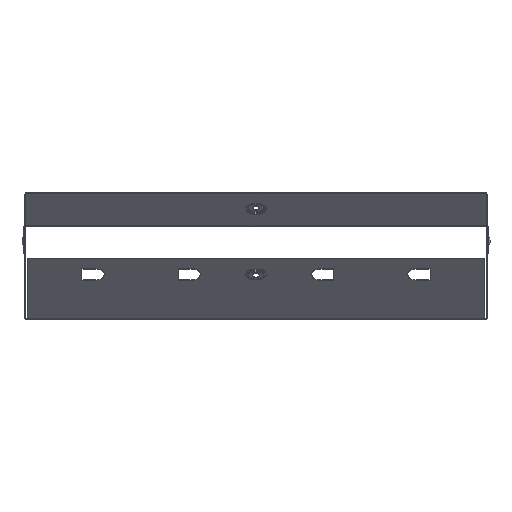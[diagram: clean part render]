
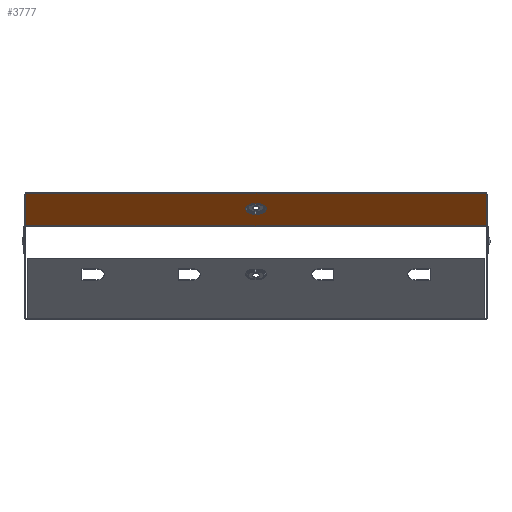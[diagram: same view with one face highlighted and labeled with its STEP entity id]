
A CAD part, top view. The second image highlights one B-rep face of the part: STEP entity #3777.
In plain terms, the highlighted planar face has unit normal (0, -0.707, 0.707).
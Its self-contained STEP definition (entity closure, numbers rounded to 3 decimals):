
#390 = AXIS2_PLACEMENT_3D ( 'NONE', #7594, #11145, #13572 ) ;
#395 = EDGE_CURVE ( 'NONE', #6185, #6937, #11813, .T. ) ;
#481 = CARTESIAN_POINT ( 'NONE',  ( -3.5, 12.446, 76.078 ) ) ;
#1164 = DIRECTION ( 'NONE',  ( 0., -0.707, -0.707 ) ) ;
#1729 = ORIENTED_EDGE ( 'NONE', *, *, #9107, .F. ) ;
#2536 = CARTESIAN_POINT ( 'NONE',  ( 3.5, 12.446, 76.078 ) ) ;
#2556 = AXIS2_PLACEMENT_3D ( 'NONE', #7744, #6660, #11349 ) ;
#2610 = DIRECTION ( 'NONE',  ( -1., 0., 0. ) ) ;
#2782 = LINE ( 'NONE', #12236, #4473 ) ;
#2926 = CARTESIAN_POINT ( 'NONE',  ( 249., 34.79, 98.421 ) ) ;
#3007 = FACE_BOUND ( 'NONE', #14838, .T. ) ;
#3017 = VECTOR ( 'NONE', #2610, 1000. ) ;
#3163 = CARTESIAN_POINT ( 'NONE',  ( -249., 34.79, 98.421 ) ) ;
#3181 = ORIENTED_EDGE ( 'NONE', *, *, #12956, .F. ) ;
#3387 = VERTEX_POINT ( 'NONE', #12747 ) ;
#3777 = ADVANCED_FACE ( 'NONE', ( #3007, #7833 ), #4180, .F. ) ;
#3807 = CARTESIAN_POINT ( 'NONE',  ( 249., -0.273, 63.359 ) ) ;
#3866 = DIRECTION ( 'NONE',  ( 1., 0., 0. ) ) ;
#4034 = ORIENTED_EDGE ( 'NONE', *, *, #14443, .F. ) ;
#4049 = ORIENTED_EDGE ( 'NONE', *, *, #8364, .F. ) ;
#4053 = VERTEX_POINT ( 'NONE', #12971 ) ;
#4180 = PLANE ( 'NONE',  #390 ) ;
#4441 = EDGE_CURVE ( 'NONE', #6185, #3387, #2782, .T. ) ;
#4473 = VECTOR ( 'NONE', #6423, 1000. ) ;
#4900 = AXIS2_PLACEMENT_3D ( 'NONE', #14212, #10625, #1164 ) ;
#5919 = VECTOR ( 'NONE', #12320, 1000. ) ;
#6029 = VERTEX_POINT ( 'NONE', #11248 ) ;
#6185 = VERTEX_POINT ( 'NONE', #10162 ) ;
#6423 = DIRECTION ( 'NONE',  ( 0., -0.707, -0.707 ) ) ;
#6533 = CIRCLE ( 'NONE', #2556, 7.598 ) ;
#6660 = DIRECTION ( 'NONE',  ( 0., -0.707, 0.707 ) ) ;
#6759 = CARTESIAN_POINT ( 'NONE',  ( -3.5, 23.192, 86.823 ) ) ;
#6937 = VERTEX_POINT ( 'NONE', #3163 ) ;
#7239 = DIRECTION ( 'NONE',  ( -1., 0., 0. ) ) ;
#7339 = LINE ( 'NONE', #13004, #15038 ) ;
#7594 = CARTESIAN_POINT ( 'NONE',  ( 249., -0.566, 63.066 ) ) ;
#7659 = DIRECTION ( 'NONE',  ( 0., -0.707, -0.707 ) ) ;
#7744 = CARTESIAN_POINT ( 'NONE',  ( -3.5, 17.819, 81.45 ) ) ;
#7800 = VERTEX_POINT ( 'NONE', #6759 ) ;
#7833 = FACE_OUTER_BOUND ( 'NONE', #8918, .T. ) ;
#8120 = ORIENTED_EDGE ( 'NONE', *, *, #395, .T. ) ;
#8364 = EDGE_CURVE ( 'NONE', #4053, #9600, #11872, .T. ) ;
#8918 = EDGE_LOOP ( 'NONE', ( #10903, #3181, #14572, #8120 ) ) ;
#9096 = CIRCLE ( 'NONE', #4900, 7.598 ) ;
#9107 = EDGE_CURVE ( 'NONE', #9600, #6029, #9096, .T. ) ;
#9183 = ORIENTED_EDGE ( 'NONE', *, *, #12761, .F. ) ;
#9600 = VERTEX_POINT ( 'NONE', #2536 ) ;
#9676 = CARTESIAN_POINT ( 'NONE',  ( -249., -0.273, 63.359 ) ) ;
#10162 = CARTESIAN_POINT ( 'NONE',  ( 249., 34.79, 98.421 ) ) ;
#10625 = DIRECTION ( 'NONE',  ( 0., -0.707, 0.707 ) ) ;
#10686 = EDGE_CURVE ( 'NONE', #6937, #11935, #7339, .T. ) ;
#10903 = ORIENTED_EDGE ( 'NONE', *, *, #10686, .T. ) ;
#11090 = VECTOR ( 'NONE', #7239, 1000. ) ;
#11101 = VECTOR ( 'NONE', #3866, 1000. ) ;
#11145 = DIRECTION ( 'NONE',  ( 0., 0.707, -0.707 ) ) ;
#11248 = CARTESIAN_POINT ( 'NONE',  ( 3.5, 23.192, 86.823 ) ) ;
#11273 = LINE ( 'NONE', #13197, #11090 ) ;
#11349 = DIRECTION ( 'NONE',  ( 0., -0.707, -0.707 ) ) ;
#11813 = LINE ( 'NONE', #2926, #5919 ) ;
#11872 = LINE ( 'NONE', #481, #11101 ) ;
#11935 = VERTEX_POINT ( 'NONE', #9676 ) ;
#12236 = CARTESIAN_POINT ( 'NONE',  ( 249., -0.566, 63.066 ) ) ;
#12320 = DIRECTION ( 'NONE',  ( -1., 0., 0. ) ) ;
#12747 = CARTESIAN_POINT ( 'NONE',  ( 249., -0.273, 63.359 ) ) ;
#12761 = EDGE_CURVE ( 'NONE', #7800, #4053, #6533, .T. ) ;
#12956 = EDGE_CURVE ( 'NONE', #3387, #11935, #13489, .T. ) ;
#12971 = CARTESIAN_POINT ( 'NONE',  ( -3.5, 12.446, 76.078 ) ) ;
#13004 = CARTESIAN_POINT ( 'NONE',  ( -249., -0.566, 63.066 ) ) ;
#13197 = CARTESIAN_POINT ( 'NONE',  ( -3.5, 23.192, 86.823 ) ) ;
#13489 = LINE ( 'NONE', #3807, #3017 ) ;
#13572 = DIRECTION ( 'NONE',  ( 0., 0.707, 0.707 ) ) ;
#14212 = CARTESIAN_POINT ( 'NONE',  ( 3.5, 17.819, 81.45 ) ) ;
#14443 = EDGE_CURVE ( 'NONE', #6029, #7800, #11273, .T. ) ;
#14572 = ORIENTED_EDGE ( 'NONE', *, *, #4441, .F. ) ;
#14838 = EDGE_LOOP ( 'NONE', ( #1729, #4049, #9183, #4034 ) ) ;
#15038 = VECTOR ( 'NONE', #7659, 1000. ) ;
